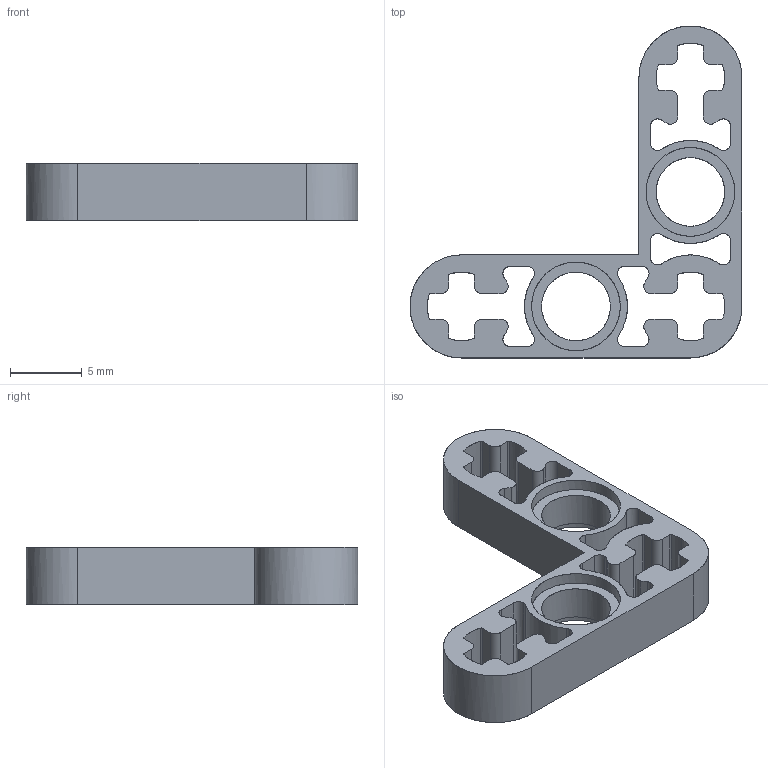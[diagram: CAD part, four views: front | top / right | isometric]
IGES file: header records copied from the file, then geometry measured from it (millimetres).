
Start section: C
Global section: file name: Ye_4112289_AVV.iges; native system: By Siemens PLM Incorporated; preprocessor: XPlus GENERIC/IGES 26.1.183; author: Author; organization: Title; date: 20250722.000644; units: millimetre
Bounding box: 23.2 x 23.2 x 4 mm (x, y, z)
Surface area: 1201.8 mm2 (no closed solid volume)
Topology: 0 solids, 0 shells, 132 faces, 780 edges, 780 vertices
Faces by surface type: bspline 132
